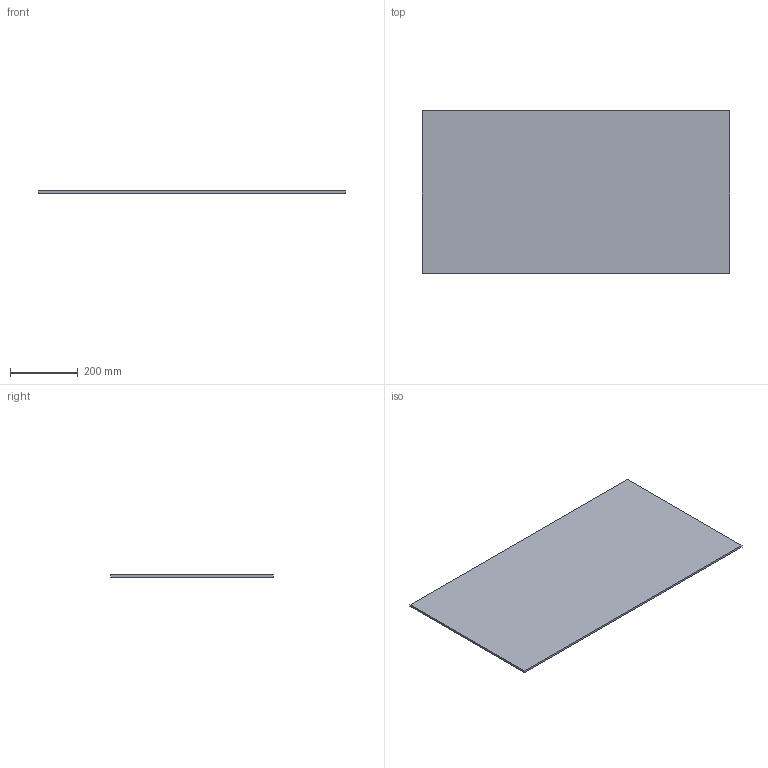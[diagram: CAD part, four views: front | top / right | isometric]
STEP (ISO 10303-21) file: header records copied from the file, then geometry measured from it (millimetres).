
FILE_DESCRIPTION (( 'STEP AP214' ), '1' );
FILE_NAME ('Lochblech_NL500_KAB1000_16.step', '2010-10-11T13:38:35', ( 'grass' ), ( '' ), 'SwSTEP 2.0', 'SolidWorks 2010', '' );
FILE_SCHEMA (( 'AUTOMOTIVE_DESIGN' ));
Length unit declared in the file: millimetre
Products named in the file (1): Lochblech_NL500_KAB1000_16
Bounding box: 908 x 479 x 6 mm (x, y, z)
Volume: 2609592 mm3; surface area: 886508 mm2
Topology: 1 solids, 1 shells, 6 faces, 12 edges, 8 vertices
Faces by surface type: plane 6
Entity records: 190 total; most frequent: CARTESIAN_POINT 27, DIRECTION 26, ORIENTED_EDGE 24, EDGE_CURVE 12, LINE 12, VECTOR 12, VERTEX_POINT 8, AXIS2_PLACEMENT_3D 7
